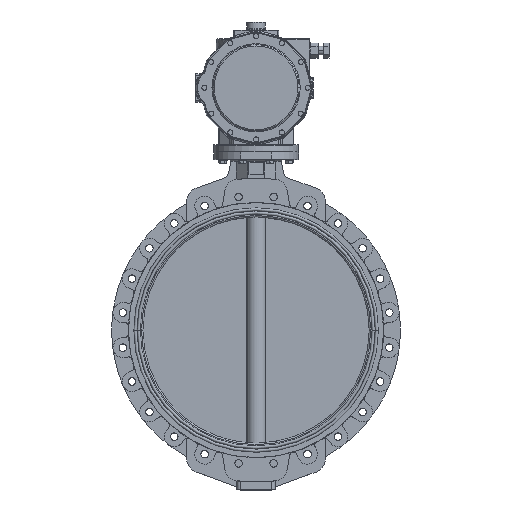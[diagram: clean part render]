
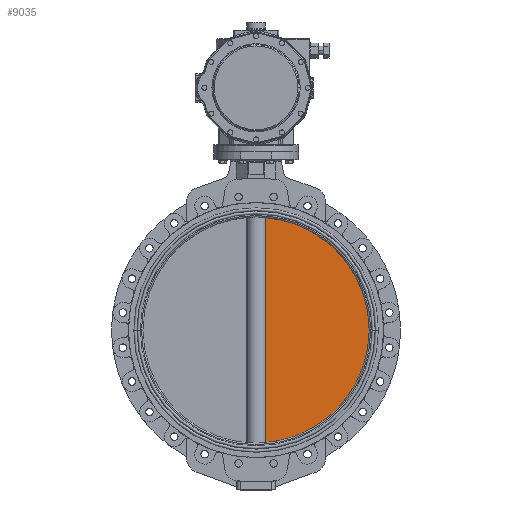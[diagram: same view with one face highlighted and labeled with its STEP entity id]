
A CAD part, top view. The second image highlights one B-rep face of the part: STEP entity #9035.
In plain terms, the highlighted planar face has unit normal (0, 0, 1).
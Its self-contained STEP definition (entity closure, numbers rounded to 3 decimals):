
#2633 = AXIS2_PLACEMENT_3D ( 'NONE', #9380, #35264, #24260 ) ;
#2883 = PLANE ( 'NONE',  #17038 ) ;
#3678 = CARTESIAN_POINT ( 'NONE',  ( 32.692, 712.001, 12.5 ) ) ;
#5499 = DIRECTION ( 'NONE',  ( 0., 0., -1. ) ) ;
#9035 = ADVANCED_FACE ( 'NONE', ( #37042 ), #2883, .F. ) ;
#9380 = CARTESIAN_POINT ( 'NONE',  ( 0., 0., 12.5 ) ) ;
#12082 = VERTEX_POINT ( 'NONE', #31300 ) ;
#14921 = ORIENTED_EDGE ( 'NONE', *, *, #37956, .T. ) ;
#15627 = CARTESIAN_POINT ( 'NONE',  ( 32.692, 712.001, 12.5 ) ) ;
#17038 = AXIS2_PLACEMENT_3D ( 'NONE', #15627, #23143, #19736 ) ;
#17487 = CIRCLE ( 'NONE', #2633, 400. ) ;
#17496 = VERTEX_POINT ( 'NONE', #29687 ) ;
#17573 = EDGE_CURVE ( 'NONE', #26609, #17496, #17487, .T. ) ;
#19736 = DIRECTION ( 'NONE',  ( -1., 0., 0. ) ) ;
#21476 = EDGE_CURVE ( 'NONE', #12082, #26609, #42710, .T. ) ;
#22488 = LINE ( 'NONE', #3678, #32800 ) ;
#23143 = DIRECTION ( 'NONE',  ( 0., 0., -1. ) ) ;
#24046 = CARTESIAN_POINT ( 'NONE',  ( 0., 0., 12.5 ) ) ;
#24260 = DIRECTION ( 'NONE',  ( -1., 0., 0. ) ) ;
#26609 = VERTEX_POINT ( 'NONE', #29637 ) ;
#28703 = AXIS2_PLACEMENT_3D ( 'NONE', #24046, #5499, #31659 ) ;
#29637 = CARTESIAN_POINT ( 'NONE',  ( 400., 0., 12.5 ) ) ;
#29687 = CARTESIAN_POINT ( 'NONE',  ( 32.692, -398.662, 12.5 ) ) ;
#31300 = CARTESIAN_POINT ( 'NONE',  ( 32.692, 398.662, 12.5 ) ) ;
#31659 = DIRECTION ( 'NONE',  ( -1., 0., 0. ) ) ;
#32800 = VECTOR ( 'NONE', #34214, 1000. ) ;
#34214 = DIRECTION ( 'NONE',  ( 0., -1., 0. ) ) ;
#35264 = DIRECTION ( 'NONE',  ( 0., 0., -1. ) ) ;
#37042 = FACE_OUTER_BOUND ( 'NONE', #45051, .T. ) ;
#37956 = EDGE_CURVE ( 'NONE', #12082, #17496, #22488, .T. ) ;
#38671 = ORIENTED_EDGE ( 'NONE', *, *, #21476, .F. ) ;
#41109 = ORIENTED_EDGE ( 'NONE', *, *, #17573, .F. ) ;
#42710 = CIRCLE ( 'NONE', #28703, 400. ) ;
#45051 = EDGE_LOOP ( 'NONE', ( #38671, #14921, #41109 ) ) ;
